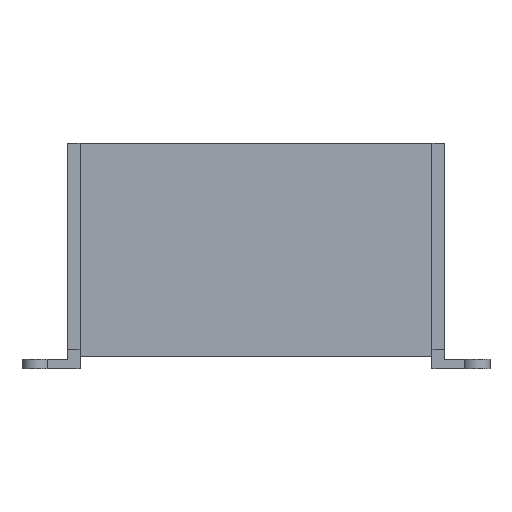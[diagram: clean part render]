
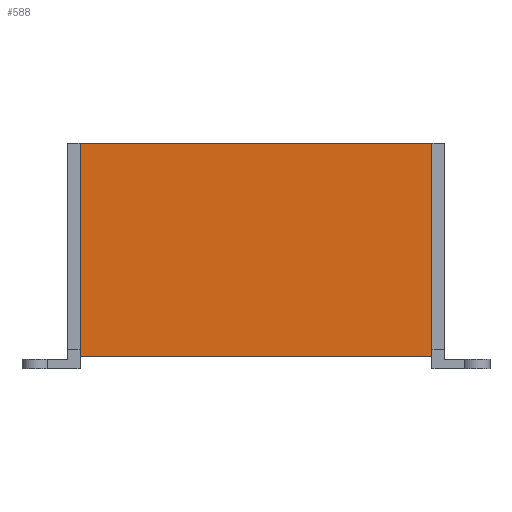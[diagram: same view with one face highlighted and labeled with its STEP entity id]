
A CAD part, top view. The second image highlights one B-rep face of the part: STEP entity #588.
In plain terms, the highlighted planar face has unit normal (0, 0, 1).
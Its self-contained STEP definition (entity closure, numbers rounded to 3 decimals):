
#421 = VERTEX_POINT('',#422);
#422 = CARTESIAN_POINT('',(-56.,-149.,117.));
#428 = EDGE_CURVE('',#421,#429,#431,.T.);
#429 = VERTEX_POINT('',#430);
#430 = CARTESIAN_POINT('',(56.,-149.,117.));
#431 = LINE('',#432,#433);
#432 = CARTESIAN_POINT('',(-60.,-149.,117.));
#433 = VECTOR('',#434,1.);
#434 = DIRECTION('',(1.,0.,0.));
#524 = VERTEX_POINT('',#525);
#525 = CARTESIAN_POINT('',(56.,-217.,117.));
#531 = EDGE_CURVE('',#532,#524,#534,.T.);
#532 = VERTEX_POINT('',#533);
#533 = CARTESIAN_POINT('',(-56.,-217.,117.));
#534 = LINE('',#535,#536);
#535 = CARTESIAN_POINT('',(-60.,-217.,117.));
#536 = VECTOR('',#537,1.);
#537 = DIRECTION('',(1.,0.,0.));
#588 = ADVANCED_FACE('',(#589),#605,.T.);
#589 = FACE_BOUND('',#590,.T.);
#590 = EDGE_LOOP('',(#591,#597,#598,#604));
#591 = ORIENTED_EDGE('',*,*,#592,.F.);
#592 = EDGE_CURVE('',#532,#421,#593,.T.);
#593 = LINE('',#594,#595);
#594 = CARTESIAN_POINT('',(-56.,-217.,117.));
#595 = VECTOR('',#596,1.);
#596 = DIRECTION('',(0.,1.,0.));
#597 = ORIENTED_EDGE('',*,*,#531,.T.);
#598 = ORIENTED_EDGE('',*,*,#599,.T.);
#599 = EDGE_CURVE('',#524,#429,#600,.T.);
#600 = LINE('',#601,#602);
#601 = CARTESIAN_POINT('',(56.,-217.,117.));
#602 = VECTOR('',#603,1.);
#603 = DIRECTION('',(0.,1.,0.));
#604 = ORIENTED_EDGE('',*,*,#428,.F.);
#605 = PLANE('',#606);
#606 = AXIS2_PLACEMENT_3D('',#607,#608,#609);
#607 = CARTESIAN_POINT('',(-60.,-217.,117.));
#608 = DIRECTION('',(0.,0.,1.));
#609 = DIRECTION('',(1.,0.,0.));
